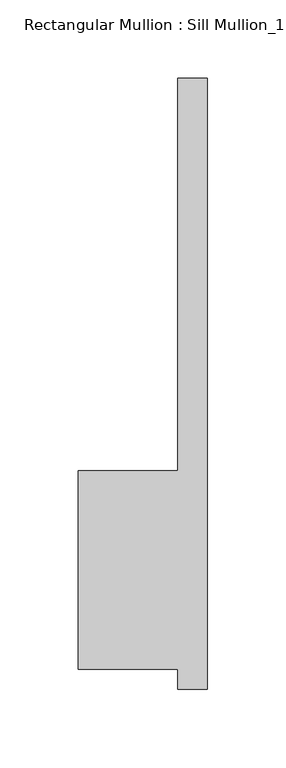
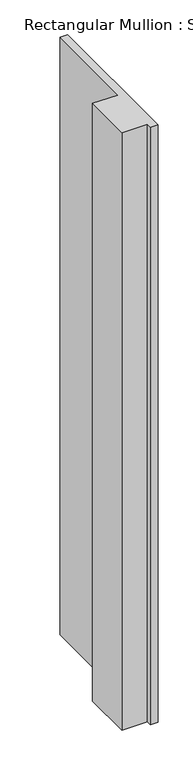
"""IFC4 building model written with IfcOpenShell, lengths in millimetres: member geometry."""

from ifc_helpers import new_model, si_unit, frame, origin, place, context, project, spatial, polyline, outline, extrude, source, transform, mapped, element, save


def member_aba30670(model_context):
    return source(origin(), model_context, "Body", "SweptSolid", [
        extrude(outline(polyline([(-82.55, 50.8), (-19.05, 50.8), (-19.05, 301.625), (0.0, 301.625), (0.0, -88.9), (-19.05, -88.9), (-19.05, -76.2), (-82.55, -76.2), (-82.55, 50.8)])), frame((0.0, 0.0, -1577.975), z_axis=(0.0, 0.0, 1.0), x_axis=(1.0, 0.0, 0.0)), (0.0, 0.0, 1.0), 1577.975),
    ])


if __name__ == "__main__":
    model = new_model("IFC4")
    model_context = context("Model", 3, world=origin())
    ifc_project = project(units=[si_unit("LENGTHUNIT", "METRE", prefix="MILLI")], contexts=[model_context])
    site = spatial("IfcSite", under=ifc_project)
    building = spatial("IfcBuilding", under=site)
    placement = place(None, origin())
    member_shape = member_aba30670(model_context)
    element("IfcMember", 1, ObjectType="Rectangular Mullion : Sill Mullion_15\" thick wall", at=placement, inside=building, context=model_context, shape_type="MappedRepresentation", body=[
        mapped(member_shape, transform((0.0, 0.0, 0.0), x_axis=(1.0, 0.0, 0.0), y_axis=(0.0, 1.0, 0.0), z_axis=(0.0, 0.0, 1.0))),
    ])
    save(model, "model.ifc")
